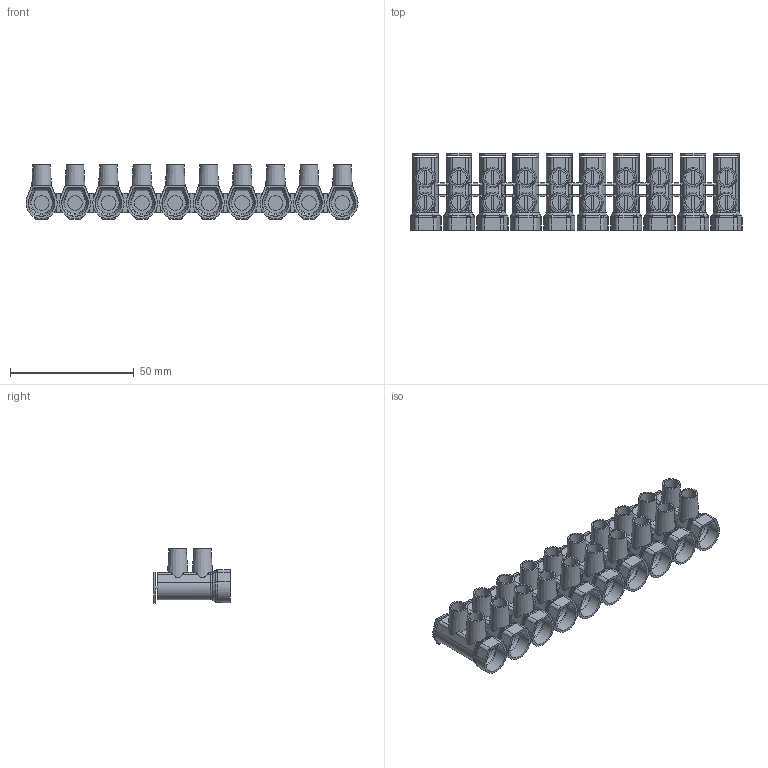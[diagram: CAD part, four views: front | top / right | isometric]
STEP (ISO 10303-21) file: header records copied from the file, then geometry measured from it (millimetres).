
FILE_DESCRIPTION(/* description */ ('Unknown'),/* implementation_level */ '2;1');
FILE_NAME(/* name */ 'MT PRO 16',/* time_stamp */ '2021-10-08T09:49:55+02:00',/* author */ ('Unknown'),/* organization */ ('Unknown'),/* preprocessor_version */ 'ST-DEVELOPER v16.7',/* originating_system */ 'Solid Edge',/* authorisation */ 'Unknown');
FILE_SCHEMA (('AUTOMOTIVE_DESIGN {1 0 10303 214 3 1 1}'));
Length unit declared in the file: millimetre
Products named in the file (1): MT PRO 16
Bounding box: 134.1 x 30.9 x 22.1 mm (x, y, z)
Volume: 23062.1 mm3; surface area: 29611.6 mm2
Topology: 1 solids, 1 shells, 1486 faces, 3970 edges, 2438 vertices
Faces by surface type: plane 746, cylinder 380, bspline 240, cone 40, sphere 40, torus 40
Full cylindrical faces by diameter (mm): 5.8 x20, 6 x10
Entity records: 48770 total; most frequent: CARTESIAN_POINT 13105, ORIENTED_EDGE 7660, DIRECTION 7312, EDGE_CURVE 3830, AXIS2_PLACEMENT_3D 2645, VERTEX_POINT 2388, LINE 2022, VECTOR 2022
